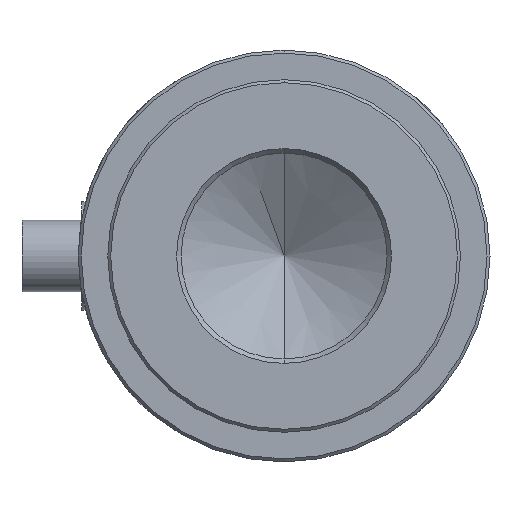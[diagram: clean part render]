
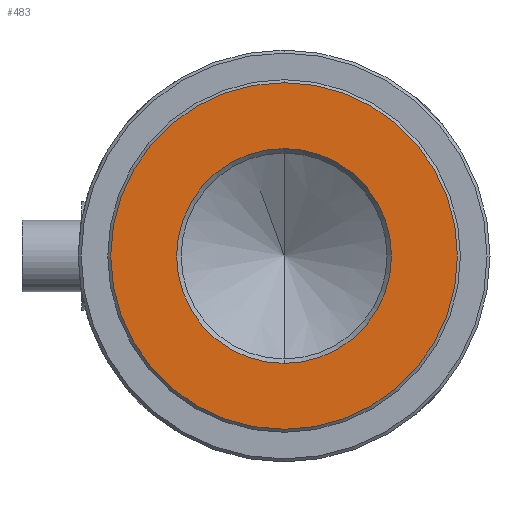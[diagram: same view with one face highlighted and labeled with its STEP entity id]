
A CAD part, front view. The second image highlights one B-rep face of the part: STEP entity #483.
In plain terms, the highlighted planar face has unit normal (0, -1, 0).
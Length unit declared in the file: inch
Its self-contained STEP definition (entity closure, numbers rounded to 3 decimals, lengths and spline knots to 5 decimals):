
#116 = EDGE_CURVE ( 'NONE', #1428, #1420, #263, .T. ) ;
#129 = EDGE_CURVE ( 'NONE', #170, #185, #264, .T. ) ;
#136 = EDGE_CURVE ( 'NONE', #185, #170, #343, .T. ) ;
#137 = EDGE_CURVE ( 'NONE', #1420, #1428, #348, .T. ) ;
#170 = VERTEX_POINT ( 'NONE', #1041 ) ;
#185 = VERTEX_POINT ( 'NONE', #1053 ) ;
#263 = CIRCLE ( 'NONE', #824, 1.1575 ) ;
#264 = CIRCLE ( 'NONE', #840, 0.7175 ) ;
#343 = CIRCLE ( 'NONE', #837, 0.7175 ) ;
#348 = CIRCLE ( 'NONE', #838, 1.1575 ) ;
#417 = FACE_BOUND ( 'NONE', #802, .T. ) ;
#431 = FACE_OUTER_BOUND ( 'NONE', #770, .T. ) ;
#483 = ADVANCED_FACE ( 'NONE', ( #417, #431 ), #1156, .T. ) ;
#507 = DIRECTION ( 'NONE',  ( 0., 0., -1. ) ) ;
#513 = CARTESIAN_POINT ( 'NONE',  ( 0., -0.04, 0. ) ) ;
#516 = DIRECTION ( 'NONE',  ( 0., -1., 0. ) ) ;
#523 = CARTESIAN_POINT ( 'NONE',  ( 0., -0.04, 0. ) ) ;
#525 = DIRECTION ( 'NONE',  ( 0., 0., -1. ) ) ;
#530 = DIRECTION ( 'NONE',  ( 0., -1., 0. ) ) ;
#691 = DIRECTION ( 'NONE',  ( 0., 0., -1. ) ) ;
#704 = DIRECTION ( 'NONE',  ( 0., -1., 0. ) ) ;
#717 = CARTESIAN_POINT ( 'NONE',  ( 0., -0.04, 0. ) ) ;
#740 = DIRECTION ( 'NONE',  ( 0., 0., -1. ) ) ;
#746 = DIRECTION ( 'NONE',  ( 0., -1., 0. ) ) ;
#754 = CARTESIAN_POINT ( 'NONE',  ( 0., -0.04, 0. ) ) ;
#770 = EDGE_LOOP ( 'NONE', ( #880, #846 ) ) ;
#802 = EDGE_LOOP ( 'NONE', ( #874, #887 ) ) ;
#824 = AXIS2_PLACEMENT_3D ( 'NONE', #717, #704, #691 ) ;
#837 = AXIS2_PLACEMENT_3D ( 'NONE', #513, #516, #525 ) ;
#838 = AXIS2_PLACEMENT_3D ( 'NONE', #523, #530, #507 ) ;
#840 = AXIS2_PLACEMENT_3D ( 'NONE', #754, #746, #740 ) ;
#846 = ORIENTED_EDGE ( 'NONE', *, *, #137, .T. ) ;
#874 = ORIENTED_EDGE ( 'NONE', *, *, #129, .F. ) ;
#880 = ORIENTED_EDGE ( 'NONE', *, *, #116, .T. ) ;
#887 = ORIENTED_EDGE ( 'NONE', *, *, #136, .F. ) ;
#971 = CARTESIAN_POINT ( 'NONE',  ( 0., -0.04, 1.1575 ) ) ;
#987 = CARTESIAN_POINT ( 'NONE',  ( 0., -0.04, -1.1575 ) ) ;
#1041 = CARTESIAN_POINT ( 'NONE',  ( 0., -0.04, -0.7175 ) ) ;
#1053 = CARTESIAN_POINT ( 'NONE',  ( 0., -0.04, 0.7175 ) ) ;
#1132 = DIRECTION ( 'NONE',  ( 0., 0., -1. ) ) ;
#1137 = DIRECTION ( 'NONE',  ( 0., -1., 0. ) ) ;
#1143 = CARTESIAN_POINT ( 'NONE',  ( 0., -0.04, 0. ) ) ;
#1156 = PLANE ( 'NONE',  #1256 ) ;
#1256 = AXIS2_PLACEMENT_3D ( 'NONE', #1143, #1137, #1132 ) ;
#1420 = VERTEX_POINT ( 'NONE', #987 ) ;
#1428 = VERTEX_POINT ( 'NONE', #971 ) ;
